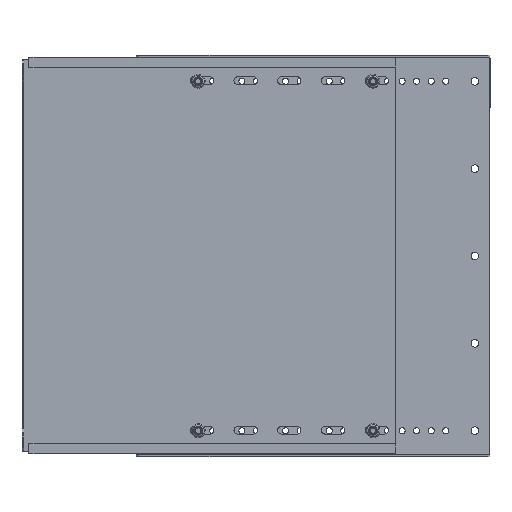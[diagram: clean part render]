
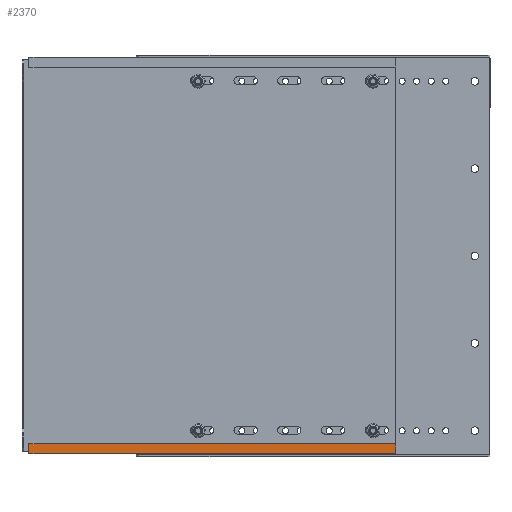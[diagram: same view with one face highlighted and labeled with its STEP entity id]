
A CAD part, front view. The second image highlights one B-rep face of the part: STEP entity #2370.
In plain terms, the highlighted planar face has unit normal (0, -1, 0).
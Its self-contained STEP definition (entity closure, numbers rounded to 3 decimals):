
#419 = LINE ( 'NONE', #1633, #1882 ) ;
#449 = VERTEX_POINT ( 'NONE', #7104 ) ;
#682 = VERTEX_POINT ( 'NONE', #5778 ) ;
#1036 = LINE ( 'NONE', #1601, #3443 ) ;
#1435 = CARTESIAN_POINT ( 'NONE',  ( -413.75, -1.6, -161.7 ) ) ;
#1496 = EDGE_CURVE ( 'NONE', #4132, #449, #5632, .T. ) ;
#1520 = PLANE ( 'NONE',  #7931 ) ;
#1601 = CARTESIAN_POINT ( 'NONE',  ( -98.75, -1.6, -165.2 ) ) ;
#1633 = CARTESIAN_POINT ( 'NONE',  ( -422.845, -1.6, -170.25 ) ) ;
#1882 = VECTOR ( 'NONE', #3027, 1000. ) ;
#2160 = VECTOR ( 'NONE', #2366, 1000. ) ;
#2366 = DIRECTION ( 'NONE',  ( 1., 0., 0. ) ) ;
#2370 = ADVANCED_FACE ( 'NONE', ( #7990 ), #1520, .T. ) ;
#2662 = EDGE_CURVE ( 'NONE', #682, #4132, #5985, .T. ) ;
#2727 = CARTESIAN_POINT ( 'NONE',  ( -413.75, -1.6, -165.2 ) ) ;
#3027 = DIRECTION ( 'NONE',  ( 1., 0., 0. ) ) ;
#3141 = ORIENTED_EDGE ( 'NONE', *, *, #1496, .F. ) ;
#3443 = VECTOR ( 'NONE', #4222, 1000. ) ;
#3743 = EDGE_CURVE ( 'NONE', #449, #6661, #1036, .T. ) ;
#3788 = ORIENTED_EDGE ( 'NONE', *, *, #7946, .T. ) ;
#4130 = CARTESIAN_POINT ( 'NONE',  ( -256.25, -1.6, -165.2 ) ) ;
#4132 = VERTEX_POINT ( 'NONE', #1435 ) ;
#4222 = DIRECTION ( 'NONE',  ( 0., 0., -1. ) ) ;
#4756 = DIRECTION ( 'NONE',  ( 0., -1., 0. ) ) ;
#5438 = ORIENTED_EDGE ( 'NONE', *, *, #2662, .F. ) ;
#5632 = LINE ( 'NONE', #7671, #2160 ) ;
#5778 = CARTESIAN_POINT ( 'NONE',  ( -413.75, -1.6, -170.25 ) ) ;
#5938 = DIRECTION ( 'NONE',  ( 0., 0., 1. ) ) ;
#5985 = LINE ( 'NONE', #2727, #6414 ) ;
#6414 = VECTOR ( 'NONE', #5938, 1000. ) ;
#6661 = VERTEX_POINT ( 'NONE', #7822 ) ;
#7104 = CARTESIAN_POINT ( 'NONE',  ( -98.75, -1.6, -161.7 ) ) ;
#7391 = DIRECTION ( 'NONE',  ( 0., 0., -1. ) ) ;
#7671 = CARTESIAN_POINT ( 'NONE',  ( -256.25, -1.6, -161.7 ) ) ;
#7674 = ORIENTED_EDGE ( 'NONE', *, *, #3743, .F. ) ;
#7822 = CARTESIAN_POINT ( 'NONE',  ( -98.75, -1.6, -170.25 ) ) ;
#7931 = AXIS2_PLACEMENT_3D ( 'NONE', #4130, #4756, #7391 ) ;
#7946 = EDGE_CURVE ( 'NONE', #682, #6661, #419, .T. ) ;
#7990 = FACE_OUTER_BOUND ( 'NONE', #8015, .T. ) ;
#8015 = EDGE_LOOP ( 'NONE', ( #3141, #5438, #3788, #7674 ) ) ;
